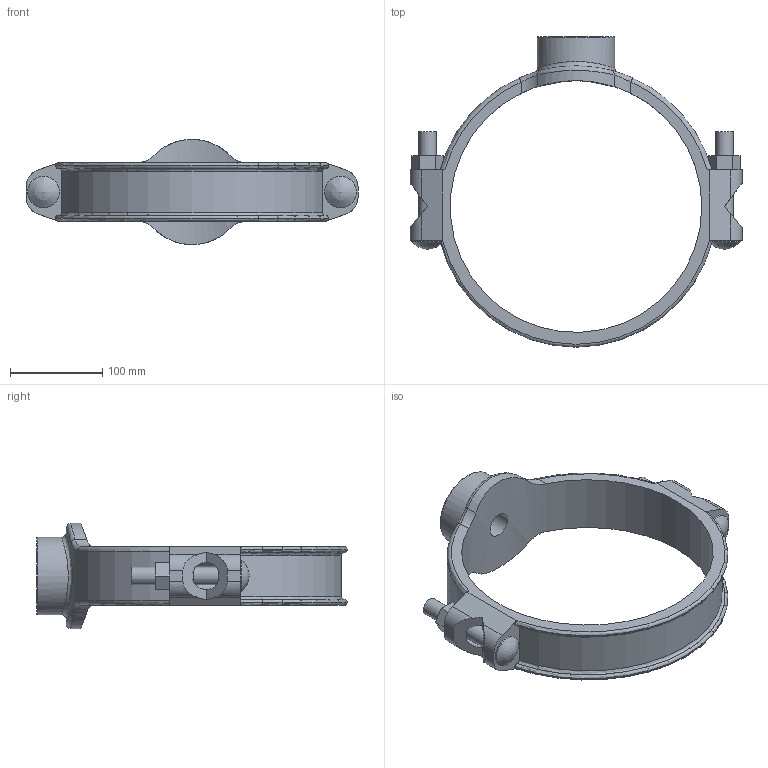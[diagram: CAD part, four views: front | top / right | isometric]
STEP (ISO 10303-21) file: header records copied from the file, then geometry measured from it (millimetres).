
FILE_DESCRIPTION(/* description */ ('VIC SS MECHANICAL T BRANCH OUTLET STYLE 422 (BSPT)','CAx-IF Rec.Pracs.---Representation and Presentation of Product Manufacturing Information (PMI)---4.0---2014-10-13'),/* implementation_level */ '2;1');
FILE_NAME(/* name */ 'C:\Files for Export\422\STEP\Victaulic_SS-OGS_Mech-Tee Out_Style 422 (BSPT)\Victaulic_SS-OGS_Mech-Tee Out_Style 422 (BSPT)_10.0x01.0 (250x25).stp',/* time_stamp */ '2023-03-28T14:27:31+02:00',/* author */ ('jheald'),/* organization */ ('Victaulic'),/* preprocessor_version */ 'ST-DEVELOPER v18.1',/* originating_system */ 'Autodesk Inventor 2020',/* authorisation */ '');
FILE_SCHEMA (('AP242_MANAGED_MODEL_BASED_3D_ENGINEERING_MIM_LF { 1 0 10303 442 1 1 4 }'));
Length unit declared in the file: inch
Products named in the file (1): 422-10.0x01.0
Bounding box: 360.17 x 336.55 x 114.24 mm (x, y, z)
Volume: 1186559 mm3; surface area: 201183.1 mm2
Topology: 1 solids, 1 shells, 106 faces, 308 edges, 204 vertices
Faces by surface type: plane 52, cylinder 34, torus 11, bspline 9
Full cylindrical faces by diameter (mm): 19.05 x4, 26.987 x1, 33.401 x1, 34.29 x2, 84.074 x1, 273.05 x1
Entity records: 4572 total; most frequent: CARTESIAN_POINT 1554, ORIENTED_EDGE 612, DIRECTION 584, EDGE_CURVE 306, AXIS2_PLACEMENT_3D 214, VERTEX_POINT 204, LINE 156, VECTOR 156
